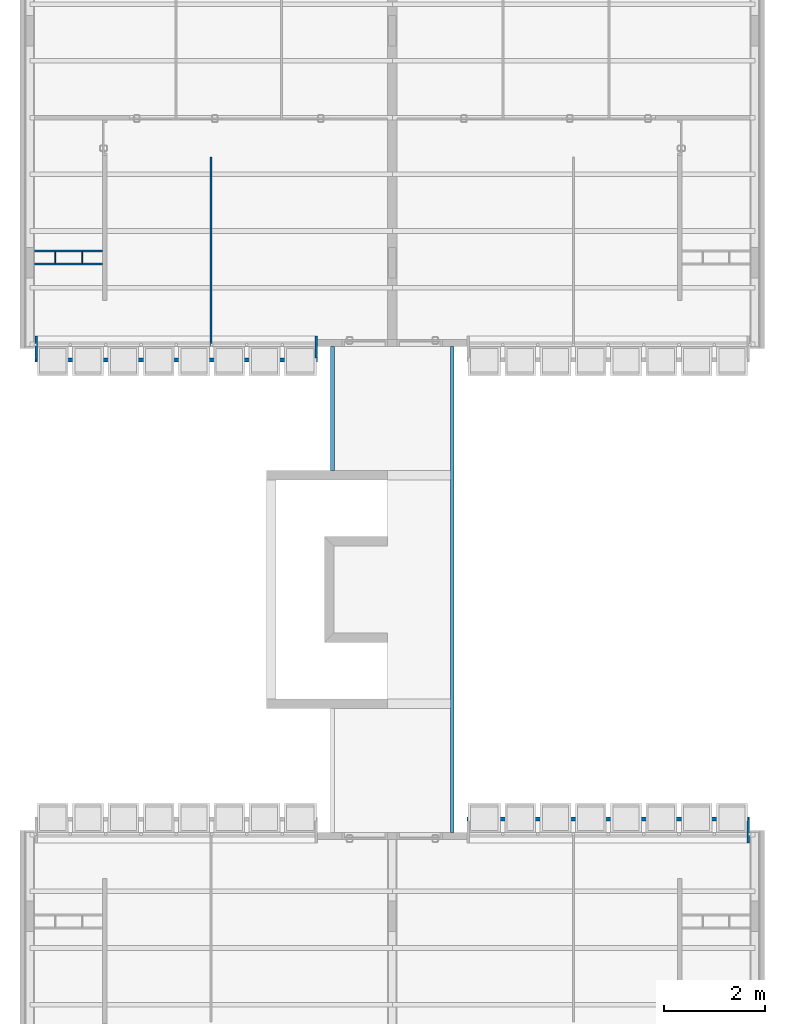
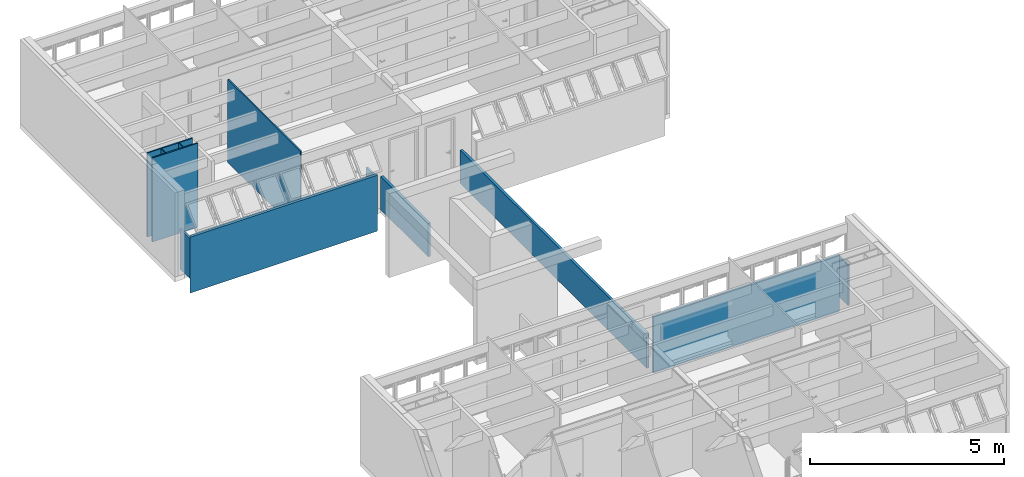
# One storey, part 16 of 37: 12 walls.
"""IFC2X3 building model written with IfcOpenShell, lengths in millimetres."""

from ifc_helpers import new_model, entity, si_unit, converted_unit, derived_unit, money_unit, direction, frame, origin_with_axes, place, context, subcontext, project, spatial, polyline, outline, extrude, material, layer, layer_set, layer_usage, type_object, element, save


model = new_model("IFC2X3")

# Units and contexts
model_context = context("Model", 3, precision=0.01, world=origin_with_axes(), true_north=direction((0.0, 1.0)))
body_context = subcontext(model_context, "Body", "Model", "MODEL_VIEW")
ifc_project = project(units=[si_unit("LENGTHUNIT", "METRE", prefix="MILLI"), si_unit("AREAUNIT", "SQUARE_METRE"), si_unit("VOLUMEUNIT", "CUBIC_METRE"), converted_unit("PLANEANGLEUNIT", "DEGREE", entity("IfcPlaneAngleMeasure", 0.0174532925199), si_unit("PLANEANGLEUNIT", "RADIAN"), dimensions=[0, 0, 0, 0, 0, 0, 0]), money_unit("USD"), converted_unit("TIMEUNIT", "Year", entity("IfcTimeMeasure", 31556926.0), si_unit("TIMEUNIT", "SECOND"), dimensions=[0, 0, 1, 0, 0, 0, 0]), si_unit("MASSUNIT", "GRAM", prefix="KILO"), si_unit("THERMODYNAMICTEMPERATUREUNIT", "DEGREE_CELSIUS"), si_unit("LUMINOUSINTENSITYUNIT", "LUMEN"), si_unit("ENERGYUNIT", "JOULE", prefix="MEGA"), derived_unit("THERMALCONDUCTANCEUNIT", [(si_unit("POWERUNIT", "WATT"), 1), (si_unit("LENGTHUNIT", "METRE"), -1), (si_unit("THERMODYNAMICTEMPERATUREUNIT", "KELVIN"), -1)]), derived_unit("SPECIFICHEATCAPACITYUNIT", [(si_unit("ENERGYUNIT", "JOULE"), 1), (si_unit("MASSUNIT", "GRAM", prefix="KILO"), -1), (si_unit("THERMODYNAMICTEMPERATUREUNIT", "KELVIN"), -1)]), derived_unit("MASSDENSITYUNIT", [(si_unit("MASSUNIT", "GRAM", prefix="KILO"), 1), (si_unit("VOLUMEUNIT", "CUBIC_METRE"), -1)])], contexts=[model_context])

# Site, building, storey
site_placement = place(None, origin_with_axes())
site = spatial("IfcSite", under=ifc_project, at=site_placement, Name="Local", CompositionType="ELEMENT")
building_placement = place(site_placement, origin_with_axes())
building = spatial("IfcBuilding", under=site, at=building_placement, Name="Construção", CompositionType="ELEMENT")
storey_placement = place(building_placement, frame((0.0, 0.0, 5300.0), z_axis=(0.0, 0.0, 1.0), x_axis=(1.0, 0.0, 0.0)))
storey = spatial("IfcBuildingStorey", under=building, at=storey_placement, Name="Terceiro Pavimento", CompositionType="ELEMENT", Elevation=5300.0)

# Walls
ifc_material_1 = material(Name="GENÉRICO - VEDAÇÃO EXTERNA")
ifc_layer_1 = layer(ifc_material_1, 40.0, ventilated="UNKNOWN")
ifc_layer_set_1 = layer_set([ifc_layer_1], Name="GENÉRICO - VEDAÇÃO EXTERNA 40")
ifc_layer_usage_1 = layer_usage(ifc_layer_set_1, "AXIS2", "POSITIVE", -40.0)
wall_type_1 = type_object("IfcWallType", Name="GENÉRICO - VEDAÇÃO EXTERNA 40", PredefinedType="NOTDEFINED")
wall_1_placement = place(storey_placement, frame((3810.0, 21655.0, 0.0), z_axis=(0.0, 0.0, 1.0), x_axis=(0.0, -1.0, 0.0)))
element("IfcWallStandardCase", 1, at=wall_1_placement, inside=storey, type_object=wall_type_1, material=ifc_layer_usage_1, Name="APTO11-PAREDE-003", context=body_context, shape_type="SweptSolid", body=[
    extrude(outline(polyline([(0.0, -40.0), (3750.0, -40.0), (3750.0, 0.0), (0.0, 0.0), (0.0, -40.0)])), origin_with_axes(), (0.0, 0.0, 1.0), 2620.0),
])
ifc_layer_usage_2 = layer_usage(ifc_layer_set_1, "AXIS2", "POSITIVE", -40.0)
wall_2_placement = place(storey_placement, frame((290.0, 19815.0, 0.0), z_axis=(0.0, 0.0, 1.0), x_axis=(1.0, 0.0, 0.0)))
element("IfcWallStandardCase", 2, at=wall_2_placement, inside=storey, type_object=wall_type_1, material=ifc_layer_usage_2, Name="APTO11-PAREDE-011", context=body_context, shape_type="SweptSolid", body=[
    extrude(outline(polyline([(0.0, -40.0), (1350.0, -40.0), (1350.0, 0.0), (0.0, 0.0), (0.0, -40.0)])), origin_with_axes(), (0.0, 0.0, 1.0), 2650.0),
])
ifc_layer_usage_3 = layer_usage(ifc_layer_set_1, "AXIS2", "POSITIVE", -40.0)
wall_3_placement = place(storey_placement, frame((1730.0, 19515.0, 0.0), z_axis=(0.0, 0.0, 1.0), x_axis=(-1.0, 0.0, 0.0)))
element("IfcWallStandardCase", 3, at=wall_3_placement, inside=storey, type_object=wall_type_1, material=ifc_layer_usage_3, Name="APTO11-PAREDE-010", context=body_context, shape_type="SweptSolid", body=[
    extrude(outline(polyline([(90.0, -40.0), (1440.0, -40.0), (1440.0, 0.0), (90.0, 0.0), (90.0, -40.0)])), origin_with_axes(), (0.0, 0.0, 1.0), 2650.0),
])
ifc_material_2 = material(Name="Concreto Armado Moldado in Loco - Estrutural")
ifc_layer_2 = layer(ifc_material_2, 50.0, ventilated="UNKNOWN")
ifc_layer_set_2 = layer_set([ifc_layer_2], Name="Concreto Armado Moldado in Loco - Estrutural 50")
ifc_layer_usage_4 = layer_usage(ifc_layer_set_2, "AXIS2", "NEGATIVE", 50.0)
wall_type_2 = type_object("IfcWallType", Name="Concreto Armado Moldado in Loco - Estrutural 50", PredefinedType="NOTDEFINED")
wall_4_placement = place(storey_placement, frame((14470.0, 8054.99999866, 0.0), z_axis=(0.0, 0.0, 1.0), x_axis=(0.0, 1.0, 0.0)))
element("IfcWallStandardCase", 4, at=wall_4_placement, inside=storey, type_object=wall_type_2, material=ifc_layer_usage_4, Name="APTO10-PAREDE-018", context=body_context, shape_type="SweptSolid", body=[
    extrude(outline(polyline([(0.0, 0.0), (510.0, 0.0), (430.0, 50.0), (0.0, 50.0), (0.0, 0.0)])), origin_with_axes(), (0.0, 0.0, 1.0), 1270.0),
])
ifc_layer_usage_5 = layer_usage(ifc_layer_set_2, "AXIS2", "NEGATIVE", 50.0)
wall_5_placement = place(storey_placement, frame((5850.0, 18105.0000013, 0.0), z_axis=(0.0, 0.0, 1.0), x_axis=(0.0, -1.0, 0.0)))
element("IfcWallStandardCase", 5, at=wall_5_placement, inside=storey, type_object=wall_type_2, material=ifc_layer_usage_5, Name="APTO11-PAREDE-016", context=body_context, shape_type="SweptSolid", body=[
    extrude(outline(polyline([(0.0, 0.0), (435.0, 0.0), (435.0, 50.0), (0.0, 50.0), (0.0, 0.0)])), origin_with_axes(), (0.0, 0.0, 1.0), 1270.0),
])
ifc_layer_usage_6 = layer_usage(ifc_layer_set_2, "AXIS2", "NEGATIVE", 50.0)
wall_6_placement = place(storey_placement, frame((300.0, 18105.0000013, 0.0), z_axis=(0.0, 0.0, 1.0), x_axis=(0.0, -1.0, 0.0)))
element("IfcWallStandardCase", 6, at=wall_6_placement, inside=storey, type_object=wall_type_2, material=ifc_layer_usage_6, Name="APTO11-PAREDE-018", context=body_context, shape_type="SweptSolid", body=[
    extrude(outline(polyline([(0.0, 0.0), (510.0, 0.0), (430.0, 50.0), (0.0, 50.0), (0.0, 0.0)])), origin_with_axes(), (0.0, 0.0, 1.0), 1270.0),
])
ifc_layer_3 = layer(ifc_material_1, 20.0, ventilated="UNKNOWN")
ifc_layer_set_3 = layer_set([ifc_layer_3], Name="GENÉRICO - VEDAÇÃO EXTERNA 20")
ifc_layer_usage_7 = layer_usage(ifc_layer_set_3, "AXIS2", "POSITIVE", -20.0)
wall_type_3 = type_object("IfcWallType", Name="GENÉRICO - VEDAÇÃO EXTERNA 20", PredefinedType="NOTDEFINED")
wall_7_placement = place(storey_placement, frame((710.0, 19815.0, 0.0), z_axis=(0.0, 0.0, 1.0), x_axis=(0.0, -1.0, 0.0)))
element("IfcWallStandardCase", 7, at=wall_7_placement, inside=storey, type_object=wall_type_3, material=ifc_layer_usage_7, Name="APTO11-PAREDE-009", context=body_context, shape_type="SweptSolid", body=[
    extrude(outline(polyline([(40.0, -20.0), (260.0, -20.0), (260.0, 0.0), (40.0, 0.0), (40.0, -20.0)])), origin_with_axes(), (0.0, 0.0, 1.0), 2650.0),
])
ifc_layer_usage_8 = layer_usage(ifc_layer_set_3, "AXIS2", "POSITIVE", 0.0)
wall_8_placement = place(storey_placement, frame((1240.0, 19515.0, 0.0), z_axis=(0.0, 0.0, 1.0), x_axis=(0.0, 1.0, 0.0)))
element("IfcWallStandardCase", 8, at=wall_8_placement, inside=storey, type_object=wall_type_3, material=ifc_layer_usage_8, Name="APTO11-PAREDE-008", context=body_context, shape_type="SweptSolid", body=[
    extrude(outline(polyline([(40.0, 0.0), (260.0, 0.0), (260.0, 20.0), (40.0, 20.0), (40.0, 0.0)])), origin_with_axes(), (0.0, 0.0, 1.0), 2650.0),
])
ifc_layer_4 = layer(ifc_material_1, 75.0, ventilated="UNKNOWN")
ifc_layer_set_4 = layer_set([ifc_layer_4], Name="GENÉRICO - VEDAÇÃO EXTERNA 75")
ifc_layer_usage_9 = layer_usage(ifc_layer_set_4, "AXIS2", "NEGATIVE", 0.0)
wall_type_4 = type_object("IfcWallType", Name="GENÉRICO - VEDAÇÃO EXTERNA 75", PredefinedType="NOTDEFINED")
wall_9_placement = place(storey_placement, frame((8610.0, 17895.0, -50.0), z_axis=(0.0, 0.0, 1.0), x_axis=(0.0, -1.0, 0.0)))
element("IfcWallStandardCase", 9, at=wall_9_placement, inside=storey, type_object=wall_type_4, material=ifc_layer_usage_9, Name="CIRC3-PAREDE-036", context=body_context, shape_type="SweptSolid", body=[
    extrude(outline(polyline([(0.0, -75.0), (9630.00000134, -75.0), (9630.00000134, 0.0), (0.0, 0.0), (0.0, -75.0)])), origin_with_axes(), (0.0, 0.0, 1.0), 1050.0),
])
ifc_layer_usage_10 = layer_usage(ifc_layer_set_4, "AXIS2", "NEGATIVE", 0.0)
wall_10_placement = place(storey_placement, frame((6160.0, 15440.0, -50.0), z_axis=(0.0, 0.0, 1.0), x_axis=(0.0, 1.0, 0.0)))
element("IfcWallStandardCase", 10, at=wall_10_placement, inside=storey, type_object=wall_type_4, material=ifc_layer_usage_10, Name="CIRC3-PAREDE-037", context=body_context, shape_type="SweptSolid", body=[
    extrude(outline(polyline([(0.0, -75.0), (2455.0, -75.0), (2455.0, 0.0), (0.0, 0.0), (0.0, -75.0)])), origin_with_axes(), (0.0, 0.0, 1.0), 1050.0),
])
ifc_layer_5 = layer(ifc_material_2, 80.0, ventilated="UNKNOWN")
ifc_layer_set_5 = layer_set([ifc_layer_5], Name="Concreto Armado Moldado in Loco - Estrutural 80")
ifc_layer_usage_11 = layer_usage(ifc_layer_set_5, "AXIS2", "POSITIVE", -80.0)
wall_type_5 = type_object("IfcWallType", Name="Concreto Armado Moldado in Loco - Estrutural 80", PredefinedType="NOTDEFINED")
wall_11_placement = place(storey_placement, frame((14470.0, 8484.99999866, -450.0), z_axis=(0.0, 0.0, 1.0), x_axis=(-1.0, 0.0, 0.0)))
element("IfcWallStandardCase", 11, at=wall_11_placement, inside=storey, type_object=wall_type_5, material=ifc_layer_usage_11, Name="APTO10-PAREDE-017", context=body_context, shape_type="SweptSolid", body=[
    extrude(outline(polyline([(0.0, -80.0), (5600.0, -80.0), (5600.0, 0.0), (50.0, 0.0), (0.0, -80.0)])), origin_with_axes(), (0.0, 0.0, 1.0), 1765.0),
])
ifc_layer_usage_12 = layer_usage(ifc_layer_set_5, "AXIS2", "POSITIVE", -80.0)
wall_12_placement = place(storey_placement, frame((300.0, 17675.0000013, -450.0), z_axis=(0.0, 0.0, 1.0), x_axis=(1.0, 0.0, 0.0)))
element("IfcWallStandardCase", 12, at=wall_12_placement, inside=storey, type_object=wall_type_5, material=ifc_layer_usage_12, Name="APTO11-PAREDE-017", context=body_context, shape_type="SweptSolid", body=[
    extrude(outline(polyline([(0.0, -80.0), (5600.0, -80.0), (5600.0, 0.0), (50.0, 0.0), (0.0, -80.0)])), origin_with_axes(), (0.0, 0.0, 1.0), 1765.0),
])

save(model, "model.ifc")
